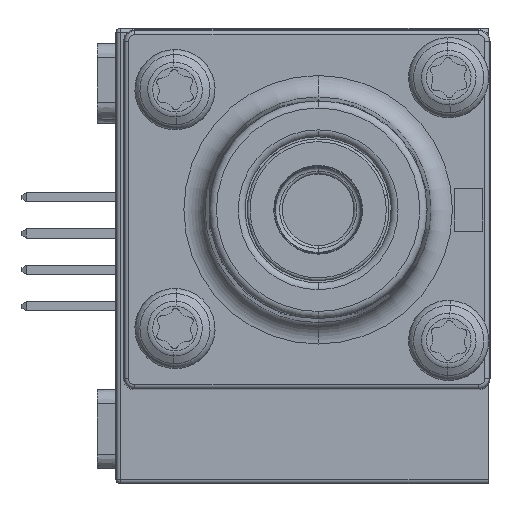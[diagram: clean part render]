
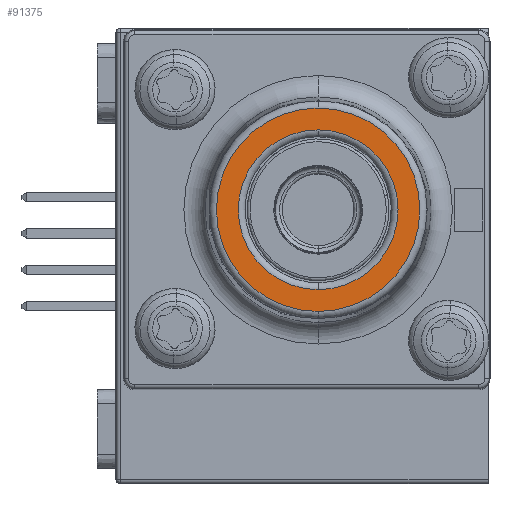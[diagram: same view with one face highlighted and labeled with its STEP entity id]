
A CAD part, left-side view. The second image highlights one B-rep face of the part: STEP entity #91375.
In plain terms, the highlighted planar face has unit normal (-1, 0, 0) as drawn and (1, 0, 0) by its records, which use the part's own axes.
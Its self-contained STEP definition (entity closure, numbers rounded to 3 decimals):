
#258 = AXIS2_PLACEMENT_3D ( 'NONE', #130934, #33690, #147272 ) ;
#3546 = ORIENTED_EDGE ( 'NONE', *, *, #164254, .T. ) ;
#14561 = FACE_BOUND ( 'NONE', #57460, .T. ) ;
#19473 = CARTESIAN_POINT ( 'NONE',  ( 72.569, 11.875, -19.142 ) ) ;
#25373 = DIRECTION ( 'NONE',  ( 1., 0., 0. ) ) ;
#33690 = DIRECTION ( 'NONE',  ( -1., 0., 0. ) ) ;
#33909 = AXIS2_PLACEMENT_3D ( 'NONE', #86317, #199873, #102550 ) ;
#34604 = CARTESIAN_POINT ( 'NONE',  ( 72.569, 11.875, -19.142 ) ) ;
#35905 = DIRECTION ( 'NONE',  ( 0., 0., 1. ) ) ;
#51028 = DIRECTION ( 'NONE',  ( 0., 0., 1. ) ) ;
#53062 = EDGE_CURVE ( 'NONE', #95885, #93878, #148928, .T. ) ;
#57460 = EDGE_LOOP ( 'NONE', ( #204709, #160067 ) ) ;
#60434 = ORIENTED_EDGE ( 'NONE', *, *, #95897, .T. ) ;
#61863 = EDGE_CURVE ( 'NONE', #93878, #95885, #111036, .T. ) ;
#73879 = CARTESIAN_POINT ( 'NONE',  ( 72.569, 11.875, -24.722 ) ) ;
#80970 = CIRCLE ( 'NONE', #85606, 7.103 ) ;
#85606 = AXIS2_PLACEMENT_3D ( 'NONE', #122662, #25373, #139009 ) ;
#85618 = PLANE ( 'NONE',  #33909 ) ;
#86317 = CARTESIAN_POINT ( 'NONE',  ( 72.569, 11.875, -14.062 ) ) ;
#91375 = ADVANCED_FACE ( 'NONE', ( #139098, #14561 ), #85618, .F. ) ;
#93878 = VERTEX_POINT ( 'NONE', #200626 ) ;
#95885 = VERTEX_POINT ( 'NONE', #73879 ) ;
#95897 = EDGE_CURVE ( 'NONE', #146979, #154691, #80970, .T. ) ;
#102550 = DIRECTION ( 'NONE',  ( 0., 0., 1. ) ) ;
#102554 = AXIS2_PLACEMENT_3D ( 'NONE', #19473, #133139, #35905 ) ;
#109181 = CIRCLE ( 'NONE', #102554, 7.103 ) ;
#109503 = EDGE_LOOP ( 'NONE', ( #3546, #60434 ) ) ;
#111036 = CIRCLE ( 'NONE', #258, 5.58 ) ;
#115329 = CARTESIAN_POINT ( 'NONE',  ( 72.569, 11.875, -12.039 ) ) ;
#122662 = CARTESIAN_POINT ( 'NONE',  ( 72.569, 11.875, -19.142 ) ) ;
#130934 = CARTESIAN_POINT ( 'NONE',  ( 72.569, 11.875, -19.142 ) ) ;
#133139 = DIRECTION ( 'NONE',  ( 1., 0., 0. ) ) ;
#139009 = DIRECTION ( 'NONE',  ( 0., 0., 1. ) ) ;
#139098 = FACE_OUTER_BOUND ( 'NONE', #109503, .T. ) ;
#146979 = VERTEX_POINT ( 'NONE', #151942 ) ;
#147272 = DIRECTION ( 'NONE',  ( 0., 0., 1. ) ) ;
#148172 = DIRECTION ( 'NONE',  ( -1., 0., 0. ) ) ;
#148928 = CIRCLE ( 'NONE', #163240, 5.58 ) ;
#151942 = CARTESIAN_POINT ( 'NONE',  ( 72.569, 11.875, -26.245 ) ) ;
#154691 = VERTEX_POINT ( 'NONE', #115329 ) ;
#160067 = ORIENTED_EDGE ( 'NONE', *, *, #53062, .T. ) ;
#163240 = AXIS2_PLACEMENT_3D ( 'NONE', #34604, #148172, #51028 ) ;
#164254 = EDGE_CURVE ( 'NONE', #154691, #146979, #109181, .T. ) ;
#199873 = DIRECTION ( 'NONE',  ( -1., 0., 0. ) ) ;
#200626 = CARTESIAN_POINT ( 'NONE',  ( 72.569, 11.875, -13.562 ) ) ;
#204709 = ORIENTED_EDGE ( 'NONE', *, *, #61863, .T. ) ;
